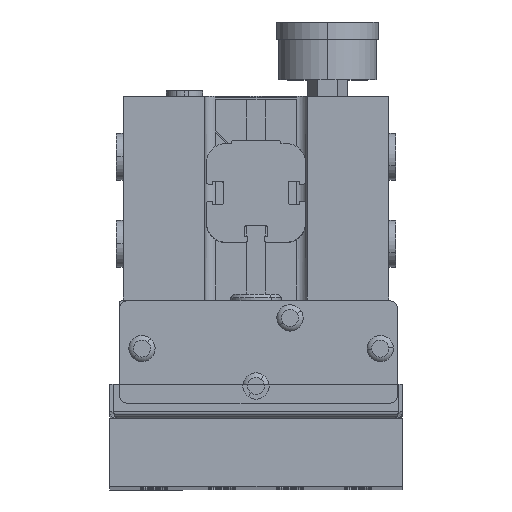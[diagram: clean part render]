
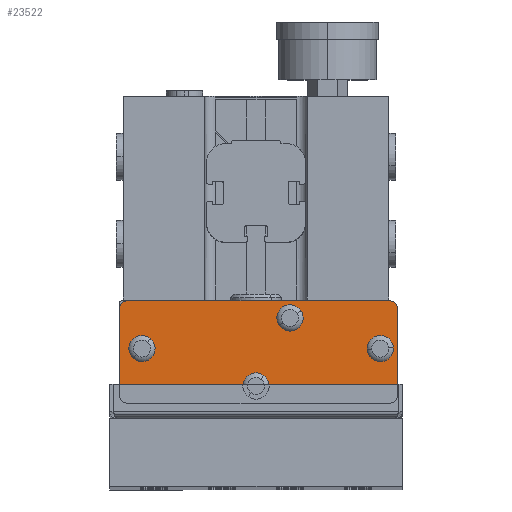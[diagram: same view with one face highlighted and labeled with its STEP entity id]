
A CAD part, top view. The second image highlights one B-rep face of the part: STEP entity #23522.
In plain terms, the highlighted planar face has unit normal (0, 0, 1).
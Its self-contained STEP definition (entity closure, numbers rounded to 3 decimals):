
#15 = AXIS2_PLACEMENT_3D ( 'NONE', #17607, #17608, #17609 ) ;
#117 = AXIS2_PLACEMENT_3D ( 'NONE', #6985, #6987, #6989 ) ;
#2304 = AXIS2_PLACEMENT_3D ( 'NONE', #24608, #24606, #24619 ) ;
#2361 = AXIS2_PLACEMENT_3D ( 'NONE', #34535, #34501, #34571 ) ;
#2461 = AXIS2_PLACEMENT_3D ( 'NONE', #31024, #31022, #31020 ) ;
#2465 = AXIS2_PLACEMENT_3D ( 'NONE', #31200, #31202, #31204 ) ;
#2470 = AXIS2_PLACEMENT_3D ( 'NONE', #31162, #31164, #31166 ) ;
#2604 = EDGE_CURVE ( 'NONE', #32457, #32449, #6851, .T. ) ;
#2610 = EDGE_CURVE ( 'NONE', #32451, #32509, #6863, .T. ) ;
#2617 = EDGE_CURVE ( 'NONE', #32505, #30411, #6883, .T. ) ;
#2796 = EDGE_CURVE ( 'NONE', #32755, #32756, #7345, .T. ) ;
#2886 = EDGE_CURVE ( 'NONE', #32722, #32763, #7529, .T. ) ;
#6851 = CIRCLE ( 'NONE', #2461, 3.857 ) ;
#6863 = CIRCLE ( 'NONE', #2465, 3.857 ) ;
#6883 = CIRCLE ( 'NONE', #2470, 3.857 ) ;
#6985 = CARTESIAN_POINT ( 'NONE',  ( 72.039, 4.924, 279.581 ) ) ;
#6987 = DIRECTION ( 'NONE',  ( 0., 0., -1. ) ) ;
#6989 = DIRECTION ( 'NONE',  ( -1., 0., 0. ) ) ;
#7345 = CIRCLE ( 'NONE', #2304, 2. ) ;
#7529 = CIRCLE ( 'NONE', #2361, 2. ) ;
#7729 = DIRECTION ( 'NONE',  ( 0., 0., -1. ) ) ;
#7802 = DIRECTION ( 'NONE',  ( -1., 0., 0. ) ) ;
#7834 = CARTESIAN_POINT ( 'NONE',  ( 2.039, 4.924, 279.581 ) ) ;
#7908 = DIRECTION ( 'NONE',  ( -1., 0., 0. ) ) ;
#7911 = CARTESIAN_POINT ( 'NONE',  ( 45.539, 13.924, 279.581 ) ) ;
#7913 = DIRECTION ( 'NONE',  ( 0., 0., -1. ) ) ;
#8476 = CARTESIAN_POINT ( 'NONE',  ( 75.039, -9.076, 279.581 ) ) ;
#8491 = DIRECTION ( 'NONE',  ( 1., 0., 0. ) ) ;
#8492 = DIRECTION ( 'NONE',  ( 0., 0., 1. ) ) ;
#8506 = DIRECTION ( 'NONE',  ( -1., 0., 0. ) ) ;
#8512 = DIRECTION ( 'NONE',  ( 0., 0., 1. ) ) ;
#8517 = CARTESIAN_POINT ( 'NONE',  ( -2.461, 16.924, 279.581 ) ) ;
#9717 = EDGE_CURVE ( 'NONE', #30387, #30386, #23851, .T. ) ;
#9818 = EDGE_CURVE ( 'NONE', #30411, #32505, #20864, .T. ) ;
#10419 = EDGE_CURVE ( 'NONE', #30386, #30387, #21772, .T. ) ;
#10480 = EDGE_CURVE ( 'NONE', #11302, #32732, #21929, .T. ) ;
#10564 = EDGE_CURVE ( 'NONE', #11271, #32724, #22171, .T. ) ;
#10646 = EDGE_CURVE ( 'NONE', #32449, #32457, #22311, .T. ) ;
#10681 = EDGE_CURVE ( 'NONE', #32732, #32755, #22378, .T. ) ;
#11271 = VERTEX_POINT ( 'NONE', #30523 ) ;
#11302 = VERTEX_POINT ( 'NONE', #30595 ) ;
#11406 = EDGE_CURVE ( 'NONE', #32724, #32722, #38074, .T. ) ;
#11410 = EDGE_CURVE ( 'NONE', #32756, #11271, #38093, .T. ) ;
#11932 = EDGE_CURVE ( 'NONE', #32763, #11302, #38538, .T. ) ;
#12088 = EDGE_LOOP ( 'NONE', ( #29902, #29912 ) ) ;
#12128 = EDGE_LOOP ( 'NONE', ( #30066, #29898 ) ) ;
#12147 = EDGE_LOOP ( 'NONE', ( #30021, #30076 ) ) ;
#12197 = EDGE_LOOP ( 'NONE', ( #30009, #29995, #30032, #29936, #30157, #29900, #30063, #30100 ) ) ;
#12214 = EDGE_LOOP ( 'NONE', ( #29959, #30135 ) ) ;
#14947 = CARTESIAN_POINT ( 'NONE',  ( 37.776, -2.934, 279.581 ) ) ;
#14948 = CARTESIAN_POINT ( 'NONE',  ( 68.211, 4.455, 279.581 ) ) ;
#14952 = CARTESIAN_POINT ( 'NONE',  ( 33.302, -9.218, 279.581 ) ) ;
#14977 = CARTESIAN_POINT ( 'NONE',  ( 42.326, 11.791, 279.581 ) ) ;
#14979 = CARTESIAN_POINT ( 'NONE',  ( 75.867, 5.393, 279.581 ) ) ;
#15085 = CARTESIAN_POINT ( 'NONE',  ( -4.461, -9.076, 279.581 ) ) ;
#15086 = CARTESIAN_POINT ( 'NONE',  ( -4.461, 16.924, 279.581 ) ) ;
#15090 = CARTESIAN_POINT ( 'NONE',  ( 77.039, -9.076, 279.581 ) ) ;
#15100 = CARTESIAN_POINT ( 'NONE',  ( 77.039, 16.924, 279.581 ) ) ;
#15101 = CARTESIAN_POINT ( 'NONE',  ( 75.039, 18.924, 279.581 ) ) ;
#15104 = CARTESIAN_POINT ( 'NONE',  ( -2.461, -11.076, 279.581 ) ) ;
#17594 = PLANE ( 'NONE',  #15 ) ;
#17607 = CARTESIAN_POINT ( 'NONE',  ( -2.461, 16.924, 279.581 ) ) ;
#17608 = DIRECTION ( 'NONE',  ( 0., 0., -1. ) ) ;
#17609 = DIRECTION ( 'NONE',  ( -1., 0., 0. ) ) ;
#17799 = CARTESIAN_POINT ( 'NONE',  ( -0.505, 2.025, 279.581 ) ) ;
#17800 = CARTESIAN_POINT ( 'NONE',  ( 4.582, 7.823, 279.581 ) ) ;
#17834 = CARTESIAN_POINT ( 'NONE',  ( 48.752, 16.057, 279.581 ) ) ;
#20864 = CIRCLE ( 'NONE', #44445, 3.857 ) ;
#21643 = DIRECTION ( 'NONE',  ( -1., 0., 0. ) ) ;
#21645 = DIRECTION ( 'NONE',  ( 0., 0., -1. ) ) ;
#21726 = CARTESIAN_POINT ( 'NONE',  ( 2.039, 4.924, 279.581 ) ) ;
#21772 = CIRCLE ( 'NONE', #42044, 3.857 ) ;
#21929 = CIRCLE ( 'NONE', #42853, 2. ) ;
#22171 = CIRCLE ( 'NONE', #42504, 2. ) ;
#22311 = CIRCLE ( 'NONE', #42316, 3.857 ) ;
#22378 = LINE ( 'NONE', #37444, #22384 ) ;
#22384 = VECTOR ( 'NONE', #37442, 1000. ) ;
#23522 = ADVANCED_FACE ( 'NONE', ( #29782, #29788, #29783, #29781, #29785 ), #17594, .F. ) ;
#23851 = CIRCLE ( 'NONE', #42540, 3.857 ) ;
#24606 = DIRECTION ( 'NONE',  ( 0., 0., 1. ) ) ;
#24608 = CARTESIAN_POINT ( 'NONE',  ( 75.039, 16.924, 279.581 ) ) ;
#24619 = DIRECTION ( 'NONE',  ( 1., 0., 0. ) ) ;
#29781 = FACE_BOUND ( 'NONE', #12128, .T. ) ;
#29782 = FACE_BOUND ( 'NONE', #12147, .T. ) ;
#29783 = FACE_BOUND ( 'NONE', #12214, .T. ) ;
#29785 = FACE_OUTER_BOUND ( 'NONE', #12197, .T. ) ;
#29788 = FACE_BOUND ( 'NONE', #12088, .T. ) ;
#29898 = ORIENTED_EDGE ( 'NONE', *, *, #2604, .T. ) ;
#29900 = ORIENTED_EDGE ( 'NONE', *, *, #10681, .T. ) ;
#29902 = ORIENTED_EDGE ( 'NONE', *, *, #9818, .T. ) ;
#29912 = ORIENTED_EDGE ( 'NONE', *, *, #2617, .T. ) ;
#29936 = ORIENTED_EDGE ( 'NONE', *, *, #11932, .T. ) ;
#29959 = ORIENTED_EDGE ( 'NONE', *, *, #40114, .T. ) ;
#29995 = ORIENTED_EDGE ( 'NONE', *, *, #11406, .T. ) ;
#30009 = ORIENTED_EDGE ( 'NONE', *, *, #10564, .T. ) ;
#30021 = ORIENTED_EDGE ( 'NONE', *, *, #9717, .T. ) ;
#30032 = ORIENTED_EDGE ( 'NONE', *, *, #2886, .T. ) ;
#30063 = ORIENTED_EDGE ( 'NONE', *, *, #2796, .T. ) ;
#30066 = ORIENTED_EDGE ( 'NONE', *, *, #10646, .T. ) ;
#30076 = ORIENTED_EDGE ( 'NONE', *, *, #10419, .T. ) ;
#30100 = ORIENTED_EDGE ( 'NONE', *, *, #11410, .T. ) ;
#30135 = ORIENTED_EDGE ( 'NONE', *, *, #2610, .T. ) ;
#30157 = ORIENTED_EDGE ( 'NONE', *, *, #10480, .T. ) ;
#30386 = VERTEX_POINT ( 'NONE', #17799 ) ;
#30387 = VERTEX_POINT ( 'NONE', #17800 ) ;
#30411 = VERTEX_POINT ( 'NONE', #17834 ) ;
#30523 = CARTESIAN_POINT ( 'NONE',  ( -2.461, 18.924, 279.581 ) ) ;
#30595 = CARTESIAN_POINT ( 'NONE',  ( 75.039, -11.076, 279.581 ) ) ;
#30953 = CARTESIAN_POINT ( 'NONE',  ( -4.461, 16.924, 279.581 ) ) ;
#30972 = DIRECTION ( 'NONE',  ( 0., -1., 0. ) ) ;
#30973 = CARTESIAN_POINT ( 'NONE',  ( -2.461, 18.924, 279.581 ) ) ;
#30985 = DIRECTION ( 'NONE',  ( -1., 0., 0. ) ) ;
#31020 = DIRECTION ( 'NONE',  ( -1., 0., 0. ) ) ;
#31022 = DIRECTION ( 'NONE',  ( 0., 0., -1. ) ) ;
#31024 = CARTESIAN_POINT ( 'NONE',  ( 35.539, -6.076, 279.581 ) ) ;
#31162 = CARTESIAN_POINT ( 'NONE',  ( 45.539, 13.924, 279.581 ) ) ;
#31164 = DIRECTION ( 'NONE',  ( 0., 0., -1. ) ) ;
#31166 = DIRECTION ( 'NONE',  ( -1., 0., 0. ) ) ;
#31200 = CARTESIAN_POINT ( 'NONE',  ( 72.039, 4.924, 279.581 ) ) ;
#31202 = DIRECTION ( 'NONE',  ( 0., 0., -1. ) ) ;
#31204 = DIRECTION ( 'NONE',  ( -1., 0., 0. ) ) ;
#31846 = CARTESIAN_POINT ( 'NONE',  ( -2.461, -11.076, 279.581 ) ) ;
#31847 = DIRECTION ( 'NONE',  ( 1., 0., 0. ) ) ;
#32449 = VERTEX_POINT ( 'NONE', #14947 ) ;
#32451 = VERTEX_POINT ( 'NONE', #14948 ) ;
#32457 = VERTEX_POINT ( 'NONE', #14952 ) ;
#32505 = VERTEX_POINT ( 'NONE', #14977 ) ;
#32509 = VERTEX_POINT ( 'NONE', #14979 ) ;
#32722 = VERTEX_POINT ( 'NONE', #15085 ) ;
#32724 = VERTEX_POINT ( 'NONE', #15086 ) ;
#32732 = VERTEX_POINT ( 'NONE', #15090 ) ;
#32755 = VERTEX_POINT ( 'NONE', #15100 ) ;
#32756 = VERTEX_POINT ( 'NONE', #15101 ) ;
#32763 = VERTEX_POINT ( 'NONE', #15104 ) ;
#34501 = DIRECTION ( 'NONE',  ( 0., 0., 1. ) ) ;
#34535 = CARTESIAN_POINT ( 'NONE',  ( -2.461, -9.076, 279.581 ) ) ;
#34571 = DIRECTION ( 'NONE',  ( -1., 0., 0. ) ) ;
#35618 = CIRCLE ( 'NONE', #117, 3.857 ) ;
#37393 = DIRECTION ( 'NONE',  ( -1., 0., 0. ) ) ;
#37409 = DIRECTION ( 'NONE',  ( 0., 0., -1. ) ) ;
#37410 = CARTESIAN_POINT ( 'NONE',  ( 35.539, -6.076, 279.581 ) ) ;
#37442 = DIRECTION ( 'NONE',  ( 0., 1., 0. ) ) ;
#37444 = CARTESIAN_POINT ( 'NONE',  ( 77.039, 16.924, 279.581 ) ) ;
#38074 = LINE ( 'NONE', #30953, #38092 ) ;
#38092 = VECTOR ( 'NONE', #30972, 1000. ) ;
#38093 = LINE ( 'NONE', #30973, #38096 ) ;
#38096 = VECTOR ( 'NONE', #30985, 1000. ) ;
#38538 = LINE ( 'NONE', #31846, #38543 ) ;
#38543 = VECTOR ( 'NONE', #31847, 1000. ) ;
#40114 = EDGE_CURVE ( 'NONE', #32509, #32451, #35618, .T. ) ;
#42044 = AXIS2_PLACEMENT_3D ( 'NONE', #21726, #21645, #21643 ) ;
#42316 = AXIS2_PLACEMENT_3D ( 'NONE', #37410, #37409, #37393 ) ;
#42504 = AXIS2_PLACEMENT_3D ( 'NONE', #8517, #8512, #8506 ) ;
#42540 = AXIS2_PLACEMENT_3D ( 'NONE', #7834, #7729, #7802 ) ;
#42853 = AXIS2_PLACEMENT_3D ( 'NONE', #8476, #8492, #8491 ) ;
#44445 = AXIS2_PLACEMENT_3D ( 'NONE', #7911, #7913, #7908 ) ;
